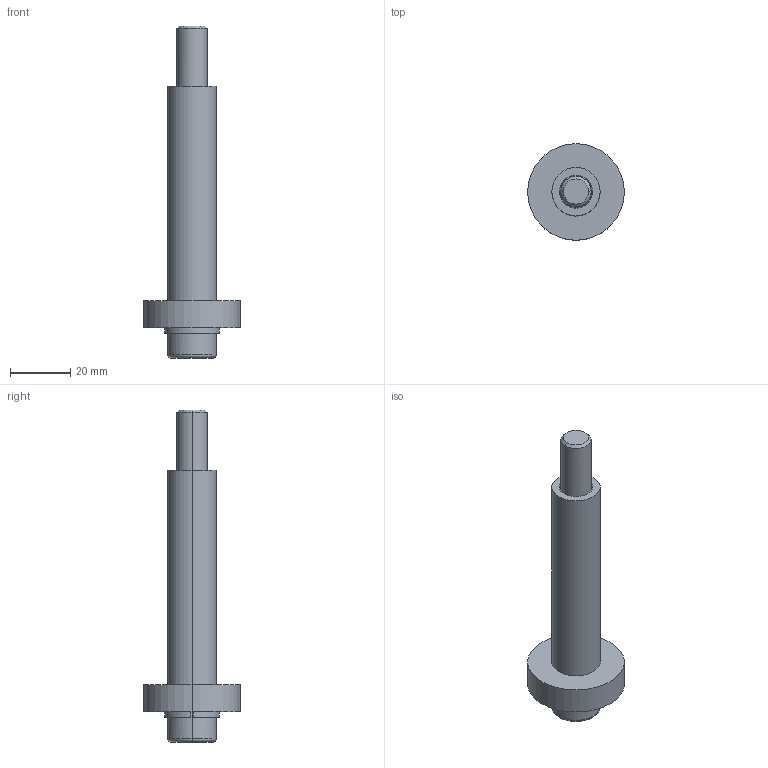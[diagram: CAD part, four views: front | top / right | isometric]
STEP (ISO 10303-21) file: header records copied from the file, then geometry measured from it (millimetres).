
FILE_DESCRIPTION(('CATIA V5 STEP Exchange'),'2;1');
FILE_NAME('C:\Users\Utente\Desktop\IO LAVORO\3D X SITO CF\X SITO\M312-08\M312-08-10.stp','2020-12-04T19:29:28+00:00',('none'),('none'),'CATIA Version 5 Release 20 GA (IN-10)','CATIA V5 STEP AP203','none');
FILE_SCHEMA(('CONFIG_CONTROL_DESIGN'));
Length unit declared in the file: millimetre
Products named in the file (1): M312-08-10
Assembly tree (1 placements, depth 2):
  M312-08-10
    #58
Bounding box: 32 x 32 x 110 mm (x, y, z)
Volume: 23571.4 mm3; surface area: 12602.6 mm2
Topology: 1 solids, 1 shells, 43 faces, 95 edges, 57 vertices
Faces by surface type: plane 21, cylinder 14, torus 4, cone 4
Entity records: 1275 total; most frequent: CARTESIAN_POINT 293, ORIENTED_EDGE 186, DIRECTION 176, EDGE_CURVE 93, AXIS2_PLACEMENT_3D 82, VERTEX_POINT 57, VECTOR 49, LINE 49
